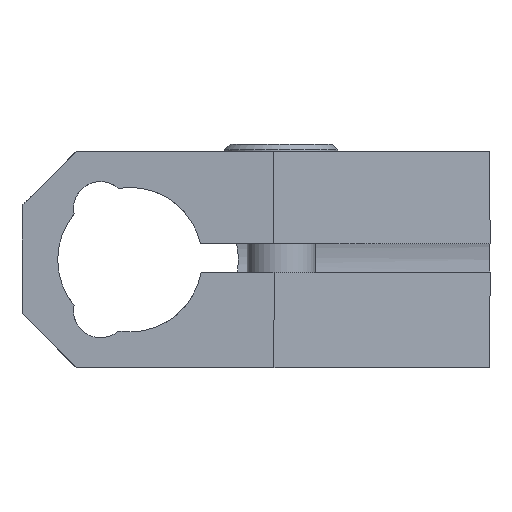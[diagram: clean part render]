
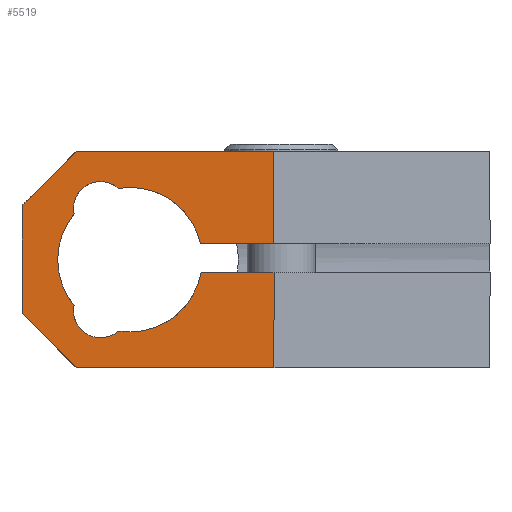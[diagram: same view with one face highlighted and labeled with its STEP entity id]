
A CAD part, front view. The second image highlights one B-rep face of the part: STEP entity #5519.
In plain terms, the highlighted planar face has unit normal (0, -1, 0).
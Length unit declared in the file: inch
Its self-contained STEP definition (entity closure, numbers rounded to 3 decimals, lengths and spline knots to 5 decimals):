
#11 = CIRCLE ( 'NONE', #12727, 0.09375 ) ;
#12 = LINE ( 'NONE', #11951, #14 ) ;
#13 = CIRCLE ( 'NONE', #12728, 0.251 ) ;
#14 = VECTOR ( 'NONE', #11950, 39.37008 ) ;
#15 = LINE ( 'NONE', #11949, #16 ) ;
#16 = VECTOR ( 'NONE', #11948, 39.37008 ) ;
#17 = LINE ( 'NONE', #11947, #18 ) ;
#18 = VECTOR ( 'NONE', #11946, 39.37008 ) ;
#19 = LINE ( 'NONE', #11945, #20 ) ;
#20 = VECTOR ( 'NONE', #11944, 39.37008 ) ;
#21 = LINE ( 'NONE', #11943, #22 ) ;
#22 = VECTOR ( 'NONE', #11942, 39.37008 ) ;
#23 = CIRCLE ( 'NONE', #12729, 0.09375 ) ;
#1328 = CIRCLE ( 'NONE', #3791, 0.09375 ) ;
#1330 = CIRCLE ( 'NONE', #3792, 0.251 ) ;
#1639 = PLANE ( 'NONE',  #3880 ) ;
#1641 = CARTESIAN_POINT ( 'NONE',  ( 0., 0., -0.75 ) ) ;
#1642 = DIRECTION ( 'NONE',  ( 0., -1., 0. ) ) ;
#1643 = DIRECTION ( 'NONE',  ( 0., 0., -1. ) ) ;
#2762 = EDGE_CURVE ( 'NONE', #12912, #12854, #1328, .T. ) ;
#2765 = EDGE_CURVE ( 'NONE', #12851, #12906, #1330, .T. ) ;
#2791 = EDGE_CURVE ( 'NONE', #12911, #12844, #14815, .T. ) ;
#3346 = EDGE_CURVE ( 'NONE', #13316, #13186, #10557, .T. ) ;
#3348 = EDGE_CURVE ( 'NONE', #13145, #13161, #10561, .T. ) ;
#3542 = ORIENTED_EDGE ( 'NONE', *, *, #15019, .F. ) ;
#3543 = ORIENTED_EDGE ( 'NONE', *, *, #15020, .F. ) ;
#3544 = ORIENTED_EDGE ( 'NONE', *, *, #15021, .T. ) ;
#3545 = ORIENTED_EDGE ( 'NONE', *, *, #15022, .F. ) ;
#3546 = ORIENTED_EDGE ( 'NONE', *, *, #4653, .F. ) ;
#3547 = ORIENTED_EDGE ( 'NONE', *, *, #15023, .T. ) ;
#3548 = ORIENTED_EDGE ( 'NONE', *, *, #3348, .F. ) ;
#3549 = ORIENTED_EDGE ( 'NONE', *, *, #15024, .T. ) ;
#3550 = ORIENTED_EDGE ( 'NONE', *, *, #15010, .T. ) ;
#3551 = ORIENTED_EDGE ( 'NONE', *, *, #3346, .F. ) ;
#3552 = ORIENTED_EDGE ( 'NONE', *, *, #15025, .T. ) ;
#3553 = ORIENTED_EDGE ( 'NONE', *, *, #2791, .F. ) ;
#3554 = ORIENTED_EDGE ( 'NONE', *, *, #12620, .F. ) ;
#3555 = ORIENTED_EDGE ( 'NONE', *, *, #2762, .F. ) ;
#3556 = ORIENTED_EDGE ( 'NONE', *, *, #15026, .F. ) ;
#3557 = ORIENTED_EDGE ( 'NONE', *, *, #2765, .F. ) ;
#3791 = AXIS2_PLACEMENT_3D ( 'NONE', #17657, #17656, #17655 ) ;
#3792 = AXIS2_PLACEMENT_3D ( 'NONE', #17654, #17653, #17652 ) ;
#3795 = AXIS2_PLACEMENT_3D ( 'NONE', #17615, #17614, #17613 ) ;
#3880 = AXIS2_PLACEMENT_3D ( 'NONE', #1641, #1642, #1643 ) ;
#3974 = EDGE_LOOP ( 'NONE', ( #3542, #3543, #3544, #3545, #3546, #3547, #3548, #3549, #3550, #3551, #3552, #3553, #3554, #3555, #3556, #3557 ) ) ;
#4653 = EDGE_CURVE ( 'NONE', #13001, #13325, #7485, .T. ) ;
#5080 = CIRCLE ( 'NONE', #12710, 0.251 ) ;
#5249 = LINE ( 'NONE', #11979, #5250 ) ;
#5250 = VECTOR ( 'NONE', #11978, 39.37008 ) ;
#5519 = ADVANCED_FACE ( 'NONE', ( #10881 ), #1639, .T. ) ;
#5842 = CARTESIAN_POINT ( 'NONE',  ( 0.875, 0., -0.32 ) ) ;
#5866 = CARTESIAN_POINT ( 'NONE',  ( 0.1875, 0., 0. ) ) ;
#6051 = CARTESIAN_POINT ( 'NONE',  ( 0.2725, 0., -0.64629 ) ) ;
#6052 = CARTESIAN_POINT ( 'NONE',  ( 0.375, 0., -0.626 ) ) ;
#6057 = CARTESIAN_POINT ( 'NONE',  ( 0.18064, 0., -0.53382 ) ) ;
#6111 = CARTESIAN_POINT ( 'NONE',  ( 0.33464, 0., -0.62273 ) ) ;
#6114 = CARTESIAN_POINT ( 'NONE',  ( 0.18064, 0., -0.21618 ) ) ;
#6121 = CARTESIAN_POINT ( 'NONE',  ( 0.62193, 0., -0.42 ) ) ;
#6424 = DIRECTION ( 'NONE',  ( 0., 0., -1. ) ) ;
#6425 = DIRECTION ( 'NONE',  ( 0., -1., 0. ) ) ;
#6426 = CARTESIAN_POINT ( 'NONE',  ( 0.375, 0., -0.375 ) ) ;
#7485 = LINE ( 'NONE', #15879, #7486 ) ;
#7486 = VECTOR ( 'NONE', #15878, 39.37008 ) ;
#10557 = LINE ( 'NONE', #16757, #10558 ) ;
#10558 = VECTOR ( 'NONE', #16755, 39.37008 ) ;
#10561 = LINE ( 'NONE', #16751, #10562 ) ;
#10562 = VECTOR ( 'NONE', #16750, 39.37008 ) ;
#10881 = FACE_OUTER_BOUND ( 'NONE', #3974, .T. ) ;
#11939 = DIRECTION ( 'NONE',  ( 0., 0., -1. ) ) ;
#11940 = DIRECTION ( 'NONE',  ( 0., -1., 0. ) ) ;
#11941 = CARTESIAN_POINT ( 'NONE',  ( 0.2725, 0., -0.55254 ) ) ;
#11942 = DIRECTION ( 'NONE',  ( -1., 0., 0. ) ) ;
#11943 = CARTESIAN_POINT ( 'NONE',  ( 0.58942, 0., -0.42 ) ) ;
#11944 = DIRECTION ( 'NONE',  ( 0.707, 0., -0.707 ) ) ;
#11945 = CARTESIAN_POINT ( 'NONE',  ( 0.09375, 0., -0.65625 ) ) ;
#11946 = DIRECTION ( 'NONE',  ( -0.707, 0., -0.707 ) ) ;
#11947 = CARTESIAN_POINT ( 'NONE',  ( -0.28125, 0., -0.46875 ) ) ;
#11948 = DIRECTION ( 'NONE',  ( 0., 0., -1. ) ) ;
#11949 = CARTESIAN_POINT ( 'NONE',  ( 0.875, 0., -0.75 ) ) ;
#11950 = DIRECTION ( 'NONE',  ( 1., 0., 0. ) ) ;
#11951 = CARTESIAN_POINT ( 'NONE',  ( 0.58942, 0., -0.32 ) ) ;
#11952 = DIRECTION ( 'NONE',  ( 0., 0., -1. ) ) ;
#11953 = DIRECTION ( 'NONE',  ( 0., -1., 0. ) ) ;
#11954 = CARTESIAN_POINT ( 'NONE',  ( 0.375, 0., -0.375 ) ) ;
#11955 = DIRECTION ( 'NONE',  ( 0., 0., -1. ) ) ;
#11956 = DIRECTION ( 'NONE',  ( 0., -1., 0. ) ) ;
#11957 = CARTESIAN_POINT ( 'NONE',  ( 0.2725, 0., -0.19746 ) ) ;
#11978 = DIRECTION ( 'NONE',  ( 1., 0., 0. ) ) ;
#11979 = CARTESIAN_POINT ( 'NONE',  ( 0., 0., -0.75 ) ) ;
#12159 = CARTESIAN_POINT ( 'NONE',  ( 0.875, 0., 0. ) ) ;
#12169 = CARTESIAN_POINT ( 'NONE',  ( 0.875, 0., -0.42 ) ) ;
#12217 = CARTESIAN_POINT ( 'NONE',  ( 0.33464, 0., -0.12727 ) ) ;
#12304 = CARTESIAN_POINT ( 'NONE',  ( 0.875, 0., -0.75 ) ) ;
#12326 = CARTESIAN_POINT ( 'NONE',  ( 0.6199, 0., -0.32 ) ) ;
#12332 = CARTESIAN_POINT ( 'NONE',  ( 0., 0., -0.1875 ) ) ;
#12338 = CARTESIAN_POINT ( 'NONE',  ( 0.1875, 0., -0.75 ) ) ;
#12348 = CARTESIAN_POINT ( 'NONE',  ( 0., 0., -0.5625 ) ) ;
#12620 = EDGE_CURVE ( 'NONE', #12854, #12911, #5080, .T. ) ;
#12710 = AXIS2_PLACEMENT_3D ( 'NONE', #6426, #6425, #6424 ) ;
#12727 = AXIS2_PLACEMENT_3D ( 'NONE', #11957, #11956, #11955 ) ;
#12728 = AXIS2_PLACEMENT_3D ( 'NONE', #11954, #11953, #11952 ) ;
#12729 = AXIS2_PLACEMENT_3D ( 'NONE', #11941, #11940, #11939 ) ;
#12844 = VERTEX_POINT ( 'NONE', #6121 ) ;
#12851 = VERTEX_POINT ( 'NONE', #6114 ) ;
#12854 = VERTEX_POINT ( 'NONE', #6111 ) ;
#12906 = VERTEX_POINT ( 'NONE', #6057 ) ;
#12911 = VERTEX_POINT ( 'NONE', #6052 ) ;
#12912 = VERTEX_POINT ( 'NONE', #6051 ) ;
#13001 = VERTEX_POINT ( 'NONE', #5866 ) ;
#13012 = VERTEX_POINT ( 'NONE', #5842 ) ;
#13145 = VERTEX_POINT ( 'NONE', #12348 ) ;
#13155 = VERTEX_POINT ( 'NONE', #12338 ) ;
#13161 = VERTEX_POINT ( 'NONE', #12332 ) ;
#13167 = VERTEX_POINT ( 'NONE', #12326 ) ;
#13186 = VERTEX_POINT ( 'NONE', #12304 ) ;
#13270 = VERTEX_POINT ( 'NONE', #12217 ) ;
#13316 = VERTEX_POINT ( 'NONE', #12169 ) ;
#13325 = VERTEX_POINT ( 'NONE', #12159 ) ;
#14815 = CIRCLE ( 'NONE', #3795, 0.251 ) ;
#15010 = EDGE_CURVE ( 'NONE', #13155, #13186, #5249, .T. ) ;
#15019 = EDGE_CURVE ( 'NONE', #13270, #12851, #11, .T. ) ;
#15020 = EDGE_CURVE ( 'NONE', #13167, #13270, #13, .T. ) ;
#15021 = EDGE_CURVE ( 'NONE', #13167, #13012, #12, .T. ) ;
#15022 = EDGE_CURVE ( 'NONE', #13325, #13012, #15, .T. ) ;
#15023 = EDGE_CURVE ( 'NONE', #13001, #13161, #17, .T. ) ;
#15024 = EDGE_CURVE ( 'NONE', #13145, #13155, #19, .T. ) ;
#15025 = EDGE_CURVE ( 'NONE', #13316, #12844, #21, .T. ) ;
#15026 = EDGE_CURVE ( 'NONE', #12906, #12912, #23, .T. ) ;
#15878 = DIRECTION ( 'NONE',  ( 1., 0., 0. ) ) ;
#15879 = CARTESIAN_POINT ( 'NONE',  ( 0., 0., 0. ) ) ;
#16750 = DIRECTION ( 'NONE',  ( 0., 0., 1. ) ) ;
#16751 = CARTESIAN_POINT ( 'NONE',  ( 0., 0., -0.75 ) ) ;
#16755 = DIRECTION ( 'NONE',  ( 0., 0., -1. ) ) ;
#16757 = CARTESIAN_POINT ( 'NONE',  ( 0.875, 0., -0.75 ) ) ;
#17613 = DIRECTION ( 'NONE',  ( 0., 0., -1. ) ) ;
#17614 = DIRECTION ( 'NONE',  ( 0., -1., 0. ) ) ;
#17615 = CARTESIAN_POINT ( 'NONE',  ( 0.375, 0., -0.375 ) ) ;
#17652 = DIRECTION ( 'NONE',  ( 0., 0., -1. ) ) ;
#17653 = DIRECTION ( 'NONE',  ( 0., -1., 0. ) ) ;
#17654 = CARTESIAN_POINT ( 'NONE',  ( 0.375, 0., -0.375 ) ) ;
#17655 = DIRECTION ( 'NONE',  ( 0., 0., -1. ) ) ;
#17656 = DIRECTION ( 'NONE',  ( 0., -1., 0. ) ) ;
#17657 = CARTESIAN_POINT ( 'NONE',  ( 0.2725, 0., -0.55254 ) ) ;
